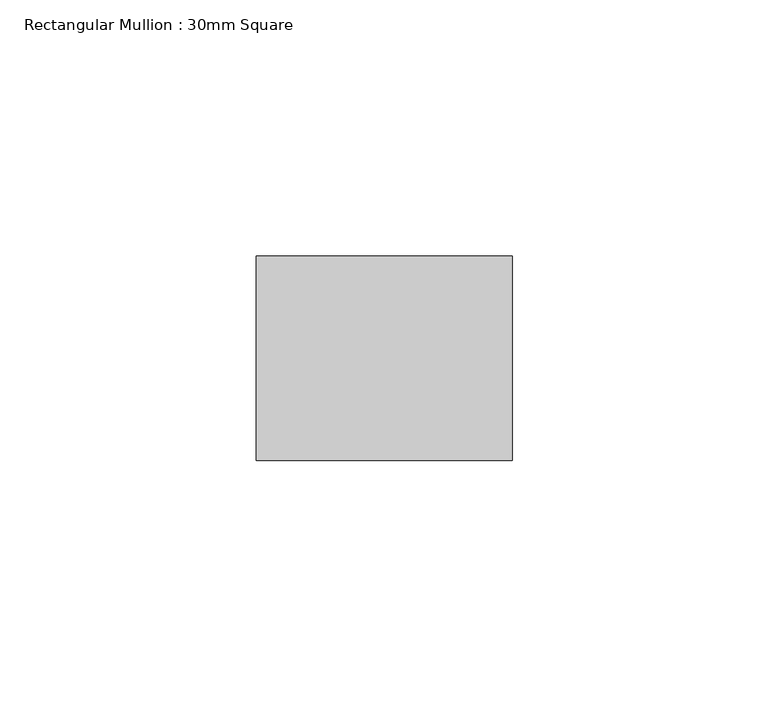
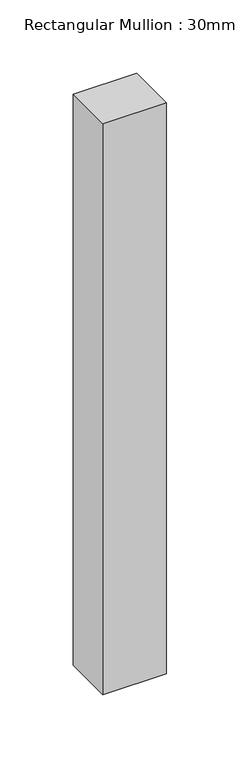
"""IFC4 building model written with IfcOpenShell, lengths in millimetres: member geometry, Rectangular Mullion : 30mm Square."""

from ifc_helpers import new_model, si_unit, frame, origin, place, context, project, spatial, polyline, outline, extrude, source, transform, mapped, element, save


def rectangular_mullion_30mm_square_8f27d01c(model_context):
    return source(origin(), model_context, "Body", "SweptSolid", [
        extrude(outline(polyline([(25.0, 20.0), (25.0, -20.0), (-25.0, -20.0), (-25.0, 20.0), (25.0, 20.0)])), frame((0.0, 0.0, -475.0), z_axis=(0.0, 0.0, 1.0), x_axis=(1.0, 0.0, 0.0)), (0.0, 0.0, 1.0), 475.0),
    ])


if __name__ == "__main__":
    model = new_model("IFC4")
    model_context = context("Model", 3, world=origin())
    ifc_project = project(units=[si_unit("LENGTHUNIT", "METRE", prefix="MILLI")], contexts=[model_context])
    site = spatial("IfcSite", under=ifc_project)
    building = spatial("IfcBuilding", under=site)
    placement = place(None, origin())
    rectangular_mullion_30mm_square_shape = rectangular_mullion_30mm_square_8f27d01c(model_context)
    element("IfcMember", 1, ObjectType="Rectangular Mullion : 30mm Square", at=placement, inside=building, context=model_context, shape_type="MappedRepresentation", body=[
        mapped(rectangular_mullion_30mm_square_shape, transform((0.0, 0.0, 0.0), x_axis=(1.0, 0.0, 0.0), y_axis=(0.0, 1.0, 0.0), z_axis=(0.0, 0.0, 1.0))),
    ])
    save(model, "model.ifc")
